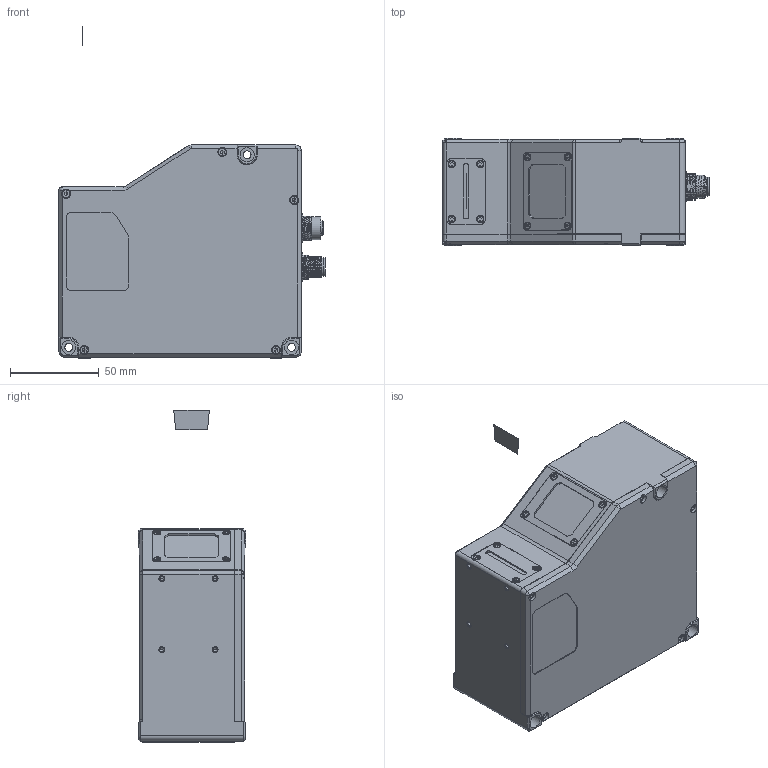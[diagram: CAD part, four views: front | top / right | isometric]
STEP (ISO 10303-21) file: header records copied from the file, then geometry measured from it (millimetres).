
FILE_DESCRIPTION((''),'2;1');
FILE_NAME('00-3062-ALL-01-03P-20250710','2025-07-22T10:21:06',('liudeting'),(''),'CREO PARAMETRIC BY PTC INC, 2020044','CREO PARAMETRIC BY PTC INC, 2020044','');
FILE_SCHEMA(('CONFIG_CONTROL_DESIGN'));
Products named in the file (1): 00-3062-ALL-01-03P-20250710
Bounding box: 149.9 x 60.5 x 187 mm (x, y, z)
Surface area: 70698.7 mm2 (no closed solid volume)
Topology: 0 solids, 50 shells, 775 faces, 2587 edges, 1829 vertices
Faces by surface type: plane 284, cylinder 243, cone 151, bspline 67, torus 30
Entity records: 46002 total; most frequent: CARTESIAN_POINT 24490, ORIENTED_EDGE 4319, DIRECTION 4207, EDGE_CURVE 2547, VERTEX_POINT 1829, AXIS2_PLACEMENT_3D 1499, VECTOR 1209, LINE 1209
